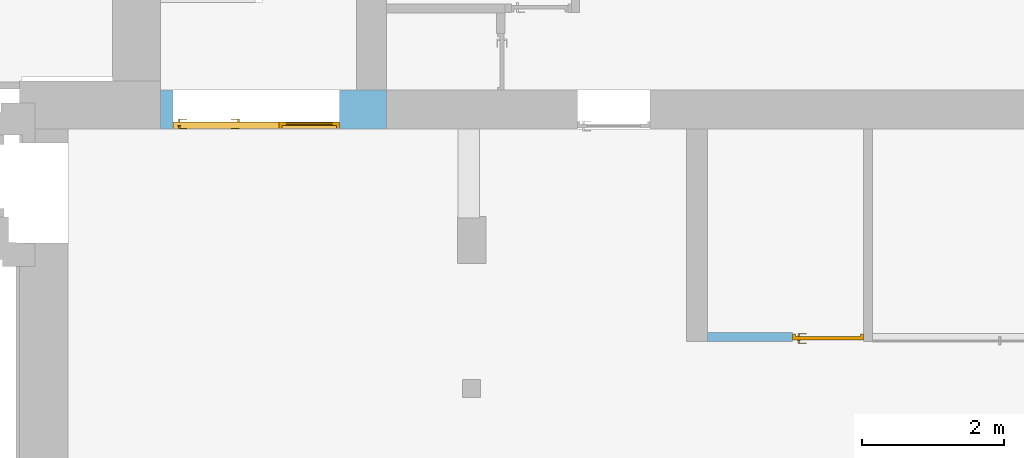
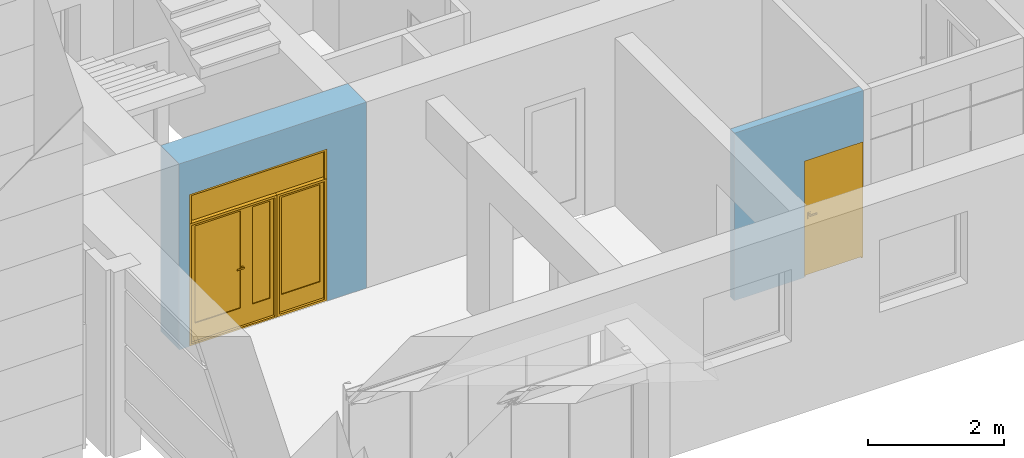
# One storey, part 33 of 49: 4 doors, 5 openings, plus 2 elements that do not belong to this part.
"""IFC2X3 building model written with IfcOpenShell, lengths in millimetres."""

from ifc_helpers import new_model, entity, si_unit, converted_unit, derived_unit, direction, frame, frame_2d, origin, place, context, subcontext, project, spatial, rectangle, extrude, faceted_brep, source, transform, mapped, material, material_list, layer, layer_set, layer_usage, type_object, type_shapes, element, fill, save


model = new_model("IFC2X3")

# Units and contexts
model_context = context("Model", 3, precision=0.01, world=origin(), true_north=direction((6.12303176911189e-17, 1.0)))
body_context = subcontext(model_context, "Body", "Model", "MODEL_VIEW")
ifc_project = project(units=[si_unit("LENGTHUNIT", "METRE", prefix="MILLI"), si_unit("AREAUNIT", "SQUARE_METRE"), si_unit("VOLUMEUNIT", "CUBIC_METRE"), converted_unit("PLANEANGLEUNIT", "DEGREE", entity("IfcRatioMeasure", 0.0174532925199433), si_unit("PLANEANGLEUNIT", "RADIAN"), dimensions=[0, 0, 0, 0, 0, 0, 0]), si_unit("MASSUNIT", "GRAM", prefix="KILO"), derived_unit("MASSDENSITYUNIT", [(si_unit("MASSUNIT", "GRAM", prefix="KILO"), 1), (si_unit("LENGTHUNIT", "METRE"), -3)]), si_unit("TIMEUNIT", "SECOND"), si_unit("FREQUENCYUNIT", "HERTZ"), si_unit("THERMODYNAMICTEMPERATUREUNIT", "DEGREE_CELSIUS"), derived_unit("THERMALTRANSMITTANCEUNIT", [(si_unit("MASSUNIT", "GRAM", prefix="KILO"), 1), (si_unit("THERMODYNAMICTEMPERATUREUNIT", "KELVIN"), -1), (si_unit("TIMEUNIT", "SECOND"), -3)]), derived_unit("VOLUMETRICFLOWRATEUNIT", [(si_unit("LENGTHUNIT", "METRE"), 3), (si_unit("TIMEUNIT", "SECOND"), -1)]), si_unit("ELECTRICCURRENTUNIT", "AMPERE"), si_unit("ELECTRICVOLTAGEUNIT", "VOLT"), si_unit("POWERUNIT", "WATT"), si_unit("FORCEUNIT", "NEWTON", prefix="KILO"), si_unit("ILLUMINANCEUNIT", "LUX"), si_unit("LUMINOUSFLUXUNIT", "LUMEN"), si_unit("LUMINOUSINTENSITYUNIT", "CANDELA"), derived_unit("USERDEFINED", [(si_unit("MASSUNIT", "GRAM", prefix="KILO"), -1), (si_unit("LENGTHUNIT", "METRE"), -2), (si_unit("TIMEUNIT", "SECOND"), 3), (si_unit("LUMINOUSFLUXUNIT", "LUMEN"), 1)]), derived_unit("LINEARVELOCITYUNIT", [(si_unit("LENGTHUNIT", "METRE"), 1), (si_unit("TIMEUNIT", "SECOND"), -1)]), si_unit("PRESSUREUNIT", "PASCAL"), derived_unit("USERDEFINED", [(si_unit("LENGTHUNIT", "METRE"), -2), (si_unit("MASSUNIT", "GRAM", prefix="KILO"), 1), (si_unit("TIMEUNIT", "SECOND"), -2)])], contexts=[model_context])

# Site, building, storey
site_placement = place(None, frame((-151.875543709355, 2715.0, 0.0)))
site = spatial("IfcSite", under=ifc_project, at=site_placement, Name="Surface", CompositionType="ELEMENT")
building_placement = place(site_placement, origin())
building = spatial("IfcBuilding", under=site, at=building_placement, CompositionType="ELEMENT")
storey_placement = place(building_placement, origin())
storey = spatial("IfcBuildingStorey", under=building, at=storey_placement, Name="1 korrus", CompositionType="ELEMENT", Elevation=3.0969999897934e-10)

# Wall, openings, doors
ifc_material_1 = material(Name="__Kips GN13_tava")
ifc_layer_1 = layer(ifc_material_1, 20.0)
ifc_material_2 = material(Name="Masonry - Brick")
ifc_layer_2 = layer(ifc_material_2, 510.0)
ifc_layer_3 = layer(ifc_material_1, 20.0)
ifc_layer_set_1 = layer_set([ifc_layer_1, ifc_layer_2, ifc_layer_3], Name="Basic Wall:SS-1")
ifc_layer_usage_1 = layer_usage(ifc_layer_set_1, "AXIS2", "NEGATIVE", 275.0)
wall_type_1 = type_object("IfcWallType", Name="Basic Wall:SS-1", PredefinedType="STANDARD", material=ifc_layer_set_1)
wall_1_placement = place(storey_placement, frame((1770.0, 6285.0, 0.0)))
wall_1 = element("IfcWallStandardCase", 1, at=wall_1_placement, inside=storey, type_object=wall_type_1, material=ifc_layer_usage_1, Name="SEIN - 002", ObjectType="Basic Wall:SS-1", context=body_context, shape_type="SweptSolid", body=[
    extrude(rectangle(XDim=3190.87293322, YDim=550.000000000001, at=frame_2d((1595.43646661, 0.0), x_axis=(-1.0, 0.0))), origin(), (0.0, 0.0, 1.0), 3350.0),
])
opening_1_placement = place(wall_1_placement, origin())
element("IfcOpeningElement", 2, at=opening_1_placement, cuts=wall_1, Name="SEIN - 002", ObjectType="Opening", context=body_context, shape_type="SweptSolid", body=[
    extrude(rectangle(XDim=2739.99999999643, YDim=2350.00000000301, at=frame_2d((-2.27373675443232e-13, 1.93267624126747e-12), x_axis=(0.0, 1.0))), frame((1349.7675673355, 275.0, 1370.0), z_axis=(0.0, -1.0, 0.0), x_axis=(1.0, 0.0, 0.0)), (0.0, 0.0, 1.0), 550.0),
])
opening_2_placement = place(wall_1_placement, frame((174.767567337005, -275.0, 2200.0)))
opening_2 = element("IfcOpeningElement", 3, at=opening_2_placement, cuts=wall_1, Name="Ühepoolsed:SU16_ülemine:1", ObjectType="Opening", context=body_context, shape_type="SweptSolid", body=[
    extrude(rectangle(XDim=539.999999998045, YDim=2350.0, at=frame_2d((269.999999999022, 1175.0), x_axis=(1.0, 0.0))), frame((0.0, 0.0, 0.0), z_axis=(0.0, 1.0, 0.0), x_axis=(0.0, 0.0, 1.0)), (0.0, 0.0, 1.0), 550.0),
])
opening_3_placement = place(wall_1_placement, frame((1674.76756733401, -275.0, 0.0)))
opening_3 = element("IfcOpeningElement", 4, at=opening_3_placement, cuts=wall_1, Name="Aken ukse kohal:SU-1500_aken 2:1", ObjectType="Opening", context=body_context, shape_type="SweptSolid", body=[
    extrude(rectangle(XDim=2199.99999999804, YDim=850.0, at=frame_2d((1099.99999999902, 425.0), x_axis=(1.0, 0.0))), frame((0.0, 0.0, 0.0), z_axis=(0.0, 1.0, 0.0), x_axis=(0.0, 0.0, 1.0)), (0.0, 0.0, 1.0), 550.0),
])
opening_4_placement = place(wall_1_placement, frame((174.767567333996, -275.0, 0.0)))
opening_4 = element("IfcOpeningElement", 5, at=opening_4_placement, cuts=wall_1, Name="Kahepoolsed:SU-16:1", ObjectType="Opening", context=body_context, shape_type="SweptSolid", body=[
    extrude(rectangle(XDim=2199.99999999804, YDim=1500.0, at=frame_2d((1099.99999999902, 750.0), x_axis=(1.0, 0.0))), frame((0.0, 0.0, 0.0), z_axis=(0.0, 1.0, 0.0), x_axis=(0.0, 0.0, 1.0)), (0.0, 0.0, 1.0), 550.0),
])
ifc_material_3 = material(Name="_Alumiiniumprofiil - must")
ifc_material_4 = material(Name="__Uks_hele tamm")
ifc_material_5 = material(Name="EP Tavallinen lasi")
ifc_material_list_1 = material_list([ifc_material_3, ifc_material_4, ifc_material_5])
ifc_material_list_2 = material_list([ifc_material_3, ifc_material_4, ifc_material_5])
door_style_1 = type_object("IfcDoorStyle", Name="SU-16", ConstructionType="NOTDEFINED", OperationType="FOLDING_TO_RIGHT", ParameterTakesPrecedence=False, Sizeable=False, material=ifc_material_list_2)
shared_shape_1 = source(origin(), body_context, "Body", "Brep", [
    faceted_brep([(912.5, 10.0, 1100.0), (817.5, 10.0, 1100.0), (817.5, 5.0, 1100.0), (937.5, 5.0, 1100.0), (937.5, 48.0, 1100.0), (912.5, 48.0, 1100.0), (912.5, 10.0, 1075.0), (912.5, 48.0, 1075.0), (937.5, 48.0, 1075.0), (937.5, 5.0, 1075.0), (817.5, 5.0, 1075.0), (817.5, 10.0, 1075.0)], [[[0, 1, 2, 3, 4, 5]], [[6, 7, 8, 9, 10, 11]], [[5, 7, 6, 0]], [[4, 8, 7, 5]], [[3, 9, 8, 4]], [[2, 10, 9, 3]], [[1, 11, 10, 2]], [[0, 6, 11, 1]]]),
    faceted_brep([(900.0, 48.0, 1125.0), (950.0, 48.0, 1125.0), (950.0, 50.0, 1125.0), (900.0, 50.0, 1125.0), (900.0, 48.0, 1005.0), (900.0, 50.0, 1005.0), (950.0, 50.0, 1005.0), (950.0, 48.0, 1005.0)], [[[0, 1, 2, 3]], [[4, 5, 6, 7]], [[3, 5, 4, 0]], [[2, 6, 5, 3]], [[1, 7, 6, 2]], [[0, 4, 7, 1]]]),
    faceted_brep([(912.499999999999, 140.0, 1100.0), (912.499999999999, 102.0, 1100.0), (937.499999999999, 102.0, 1100.0), (937.499999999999, 145.0, 1100.0), (817.499999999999, 145.0, 1100.0), (817.499999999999, 140.0, 1100.0), (912.499999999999, 140.0, 1075.0), (817.499999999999, 140.0, 1075.0), (817.499999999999, 145.0, 1075.0), (937.499999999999, 145.0, 1075.0), (937.499999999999, 102.0, 1075.0), (912.499999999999, 102.0, 1075.0)], [[[0, 1, 2, 3, 4, 5]], [[6, 7, 8, 9, 10, 11]], [[1, 0, 6, 11]], [[2, 1, 11, 10]], [[3, 2, 10, 9]], [[4, 3, 9, 8]], [[5, 4, 8, 7]], [[0, 5, 7, 6]]]),
    faceted_brep([(900.0, 102.0, 1125.0), (900.0, 100.0, 1125.0), (950.0, 100.0, 1125.0), (950.0, 102.0, 1125.0), (900.0, 102.0, 1005.0), (950.0, 102.0, 1005.0), (950.0, 100.0, 1005.0), (900.0, 100.0, 1005.0)], [[[0, 1, 2, 3]], [[4, 5, 6, 7]], [[1, 0, 4, 7]], [[2, 1, 7, 6]], [[3, 2, 6, 5]], [[0, 3, 5, 4]]]),
    faceted_brep([(1460.0, 10.0, 30.0), (1460.0, 10.0, 0.0), (1460.0, 50.0, 0.0), (1460.0, 50.0, 20.0), (1460.0, 50.0, 30.0), (40.0, 10.0, 30.0), (40.0, 50.0, 30.0), (40.0, 50.0, 20.0), (40.0, 50.0, 0.0), (40.0, 10.0, 0.0), (25.0, 50.0, 0.0), (25.0, 100.0, 0.0), (1475.0, 100.0, 0.0), (1475.0, 50.0, 0.0), (1475.0, 100.0, 20.0), (1475.0, 50.0, 20.0), (25.0, 100.0, 20.0), (25.0, 50.0, 20.0)], [[[0, 1, 2, 3, 4]], [[5, 6, 7, 8, 9]], [[1, 0, 5, 9]], [[2, 1, 9, 8, 10, 11, 12, 13]], [[6, 4, 3, 7]], [[0, 4, 6, 5]], [[14, 15, 13, 12]], [[16, 11, 10, 17]], [[15, 14, 16, 17, 7, 3]], [[13, 15, 3, 2]], [[14, 12, 11, 16]], [[17, 10, 8, 7]]]),
    faceted_brep([(1500.0, 10.0, 0.0), (1460.0, 10.0, 0.0), (1460.0, 50.0, 0.0), (1475.0, 50.0, 0.0), (1475.0, 100.0, 0.0), (1500.0, 100.0, 0.0), (1500.0, 10.0, 2200.0), (0.0, 10.0, 2200.0), (0.0, 10.0, 0.0), (40.0, 10.0, 0.0), (40.0, 10.0, 2160.0), (1460.0, 10.0, 2160.0), (1460.0, 50.0, 2160.0), (40.0, 50.0, 2160.0), (40.0, 50.0, 0.0), (25.0, 50.0, 0.0), (25.0, 50.0, 2175.0), (1475.0, 50.0, 2175.0), (1475.0, 100.0, 2175.0), (25.0, 100.0, 2175.0), (25.0, 100.0, 0.0), (0.0, 100.0, 0.0), (0.0, 100.0, 2200.0), (1500.0, 100.0, 2200.0)], [[[0, 1, 2, 3, 4, 5]], [[1, 0, 6, 7, 8, 9, 10, 11]], [[2, 1, 11, 12]], [[3, 2, 12, 13, 14, 15, 16, 17]], [[4, 3, 17, 18]], [[5, 4, 18, 19, 20, 21, 22, 23]], [[0, 5, 23, 6]], [[8, 7, 22, 21]], [[9, 8, 21, 20, 15, 14]], [[10, 9, 14, 13]], [[16, 15, 20, 19]], [[11, 10, 13, 12]], [[17, 16, 19, 18]], [[7, 6, 23, 22]]]),
    faceted_brep([(125.0, 65.0, 350.0), (900.0, 65.0, 350.0), (900.0, 65.0, 2100.0), (125.0, 65.0, 2100.0), (125.0, 85.0, 350.0), (125.0, 85.0, 2100.0), (900.0, 85.0, 2100.0), (900.0, 85.0, 350.0)], [[[0, 1, 2, 3]], [[4, 5, 6, 7]], [[1, 0, 4, 7]], [[2, 1, 7, 6]], [[3, 2, 6, 5]], [[0, 3, 5, 4]]]),
    faceted_brep([(1100.0, 65.0, 350.0), (1400.0, 65.0, 350.0), (1400.0, 65.0, 2100.0), (1100.0, 65.0, 2100.0), (1100.0, 85.0, 350.0), (1100.0, 85.0, 2100.0), (1400.0, 85.0, 2100.0), (1400.0, 85.0, 350.0)], [[[0, 1, 2, 3]], [[4, 5, 6, 7]], [[1, 0, 4, 7]], [[2, 1, 7, 6]], [[3, 2, 6, 5]], [[0, 3, 5, 4]]]),
    faceted_brep([(1000.0, 50.0, 2175.0), (25.0, 50.0, 2175.0), (25.0, 50.0, 20.0), (1000.0, 50.0, 20.0), (125.0, 50.0, 350.0), (125.0, 50.0, 2100.0), (900.0, 50.0, 2100.0), (900.0, 50.0, 350.0), (1000.0, 100.0, 2175.0), (1000.0, 100.0, 20.0), (25.0, 100.0, 20.0), (25.0, 100.0, 2175.0), (125.0, 100.0, 2100.0), (125.0, 100.0, 350.0), (900.0, 100.0, 350.0), (900.0, 100.0, 2100.0)], [[[0, 1, 2, 3], [4, 5, 6, 7]], [[8, 9, 10, 11], [12, 13, 14, 15]], [[1, 0, 8, 11]], [[2, 1, 11, 10]], [[3, 2, 10, 9]], [[0, 3, 9, 8]], [[12, 5, 4, 13]], [[13, 4, 7, 14]], [[14, 7, 6, 15]], [[5, 12, 15, 6]]]),
    faceted_brep([(1000.0, 50.0, 2175.0), (1000.0, 50.0, 20.0), (1475.0, 50.0, 20.0), (1475.0, 50.0, 2175.0), (1100.0, 50.0, 350.0), (1100.0, 50.0, 2100.0), (1400.0, 50.0, 2100.0), (1400.0, 50.0, 350.0), (1000.0, 100.0, 2175.0), (1475.0, 100.0, 2175.0), (1475.0, 100.0, 20.0), (1000.0, 100.0, 20.0), (1100.0, 100.0, 2100.0), (1100.0, 100.0, 350.0), (1400.0, 100.0, 350.0), (1400.0, 100.0, 2100.0)], [[[0, 1, 2, 3], [4, 5, 6, 7]], [[8, 9, 10, 11], [12, 13, 14, 15]], [[1, 0, 8, 11]], [[2, 1, 11, 10]], [[3, 2, 10, 9]], [[0, 3, 9, 8]], [[12, 5, 4, 13]], [[13, 4, 7, 14]], [[14, 7, 6, 15]], [[5, 12, 15, 6]]]),
])
type_shapes(door_style_1, [shared_shape_1])
door_1_placement = place(opening_4_placement, origin())
door_1 = element("IfcDoor", 6, at=door_1_placement, inside=storey, type_object=door_style_1, material=ifc_material_list_1, Name="Kahepoolsed:SU-16", ObjectType="SU-16", OverallHeight=2199.99999999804, OverallWidth=1500.0, context=body_context, shape_type="MappedRepresentation", body=[
    mapped(shared_shape_1, transform((0.0, 0.0, 0.0), scale=1.0)),
])
fill(opening_4, door_1)
ifc_material_list_3 = material_list([ifc_material_3, ifc_material_4])
ifc_material_list_4 = material_list([ifc_material_3, ifc_material_4])
door_style_2 = type_object("IfcDoorStyle", Name="SU16_ülemine", ConstructionType="NOTDEFINED", OperationType="SINGLE_SWING_RIGHT", ParameterTakesPrecedence=False, Sizeable=False, material=ifc_material_list_4)
shared_shape_2 = source(origin(), body_context, "Body", "Brep", [
    faceted_brep([(100.0, 10.0, 1112.5), (100.0, 48.0, 1112.5), (75.0, 48.0, 1112.5), (75.0, 5.0, 1112.5), (195.0, 5.0, 1112.5), (195.0, 10.0, 1112.5), (100.0, 10.0, 1087.5), (195.0, 10.0, 1087.5), (195.0, 5.0, 1087.5), (75.0, 5.0, 1087.5), (75.0, 48.0, 1087.5), (100.0, 48.0, 1087.5)], [[[0, 1, 2, 3, 4, 5]], [[6, 7, 8, 9, 10, 11]], [[1, 0, 6, 11]], [[2, 1, 11, 10]], [[3, 2, 10, 9]], [[4, 3, 9, 8]], [[5, 4, 8, 7]], [[0, 5, 7, 6]]]),
    faceted_brep([(112.500000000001, 48.0, 1137.5), (112.500000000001, 50.0, 1137.5), (62.5000000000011, 50.0, 1137.5), (62.5000000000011, 48.0, 1137.5), (112.500000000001, 48.0, 1017.5), (62.5000000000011, 48.0, 1017.5), (62.5000000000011, 50.0, 1017.5), (112.500000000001, 50.0, 1017.5)], [[[0, 1, 2, 3]], [[4, 5, 6, 7]], [[1, 0, 4, 7]], [[2, 1, 7, 6]], [[3, 2, 6, 5]], [[0, 3, 5, 4]]]),
    faceted_brep([(100.0, 140.0, 1112.5), (195.0, 140.0, 1112.5), (195.0, 145.0, 1112.5), (75.0, 145.0, 1112.5), (75.0, 102.0, 1112.5), (100.0, 102.0, 1112.5), (100.0, 140.0, 1087.5), (100.0, 102.0, 1087.5), (75.0, 102.0, 1087.5), (75.0, 145.0, 1087.5), (195.0, 145.0, 1087.5), (195.0, 140.0, 1087.5)], [[[0, 1, 2, 3, 4, 5]], [[6, 7, 8, 9, 10, 11]], [[5, 7, 6, 0]], [[4, 8, 7, 5]], [[3, 9, 8, 4]], [[2, 10, 9, 3]], [[1, 11, 10, 2]], [[0, 6, 11, 1]]]),
    faceted_brep([(112.500000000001, 102.0, 1137.5), (62.5000000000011, 102.0, 1137.5), (62.5000000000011, 100.0, 1137.5), (112.500000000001, 100.0, 1137.5), (112.500000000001, 102.0, 1017.5), (112.500000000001, 100.0, 1017.5), (62.5000000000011, 100.0, 1017.5), (62.5000000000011, 102.0, 1017.5)], [[[0, 1, 2, 3]], [[4, 5, 6, 7]], [[3, 5, 4, 0]], [[2, 6, 5, 3]], [[1, 7, 6, 2]], [[0, 4, 7, 1]]]),
    faceted_brep([(2350.0, 10.0, 0.0), (2310.0, 10.0, 0.0), (2310.0, 50.0, 0.0), (2325.0, 50.0, 0.0), (2325.0, 100.0, 0.0), (2350.0, 100.0, 0.0), (2350.0, 10.0, 540.0), (0.0, 10.0, 540.0), (0.0, 10.0, 0.0), (40.0, 10.0, 0.0), (40.0, 10.0, 500.0), (2310.0, 10.0, 500.0), (2310.0, 50.0, 500.0), (40.0, 50.0, 500.0), (40.0, 50.0, 0.0), (25.0, 50.0, 0.0), (25.0, 50.0, 515.0), (2325.0, 50.0, 515.0), (2325.0, 100.0, 515.0), (25.0, 100.0, 515.0), (25.0, 100.0, 0.0), (0.0, 100.0, 0.0), (0.0, 100.0, 540.0), (2350.0, 100.0, 540.0)], [[[0, 1, 2, 3, 4, 5]], [[1, 0, 6, 7, 8, 9, 10, 11]], [[2, 1, 11, 12]], [[3, 2, 12, 13, 14, 15, 16, 17]], [[4, 3, 17, 18]], [[5, 4, 18, 19, 20, 21, 22, 23]], [[0, 5, 23, 6]], [[11, 10, 13, 12]], [[17, 16, 19, 18]], [[7, 6, 23, 22]], [[9, 8, 21, 20, 15, 14]], [[10, 9, 14, 13]], [[16, 15, 20, 19]], [[8, 7, 22, 21]]]),
    faceted_brep([(25.0, 50.0, 515.0), (25.0, 50.0, 20.0), (2325.0, 50.0, 20.0), (2325.0, 50.0, 515.0), (25.0, 100.0, 515.0), (2325.0, 100.0, 515.0), (2325.0, 100.0, 20.0), (25.0, 100.0, 20.0)], [[[0, 1, 2, 3]], [[4, 5, 6, 7]], [[1, 0, 4, 7]], [[2, 1, 7, 6]], [[3, 2, 6, 5]], [[0, 3, 5, 4]]]),
])
type_shapes(door_style_2, [shared_shape_2])
door_2_placement = place(opening_2_placement, origin())
door_2 = element("IfcDoor", 7, at=door_2_placement, inside=storey, type_object=door_style_2, material=ifc_material_list_3, Name="Ühepoolsed:SU16_ülemine", ObjectType="SU16_ülemine", OverallHeight=539.999999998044, OverallWidth=2350.0, context=body_context, shape_type="MappedRepresentation", body=[
    mapped(shared_shape_2, transform((0.0, 0.0, 0.0), scale=1.0)),
])
fill(opening_2, door_2)
ifc_material_list_5 = material_list([ifc_material_4, ifc_material_5])
ifc_material_list_6 = material_list([ifc_material_4, ifc_material_5])
door_style_3 = type_object("IfcDoorStyle", Name="SU-1500_aken 2", ConstructionType="NOTDEFINED", OperationType="SINGLE_SWING_LEFT", ParameterTakesPrecedence=False, Sizeable=False, material=ifc_material_list_6)
shared_shape_3 = source(origin(), body_context, "Body", "Brep", [
    faceted_brep([(40.0, 10.0, 40.0), (810.0, 10.0, 40.0), (810.0, 50.0, 40.0), (40.0, 50.0, 40.0), (40.0, 50.0, 2160.0), (40.0, 10.0, 2160.0), (0.0, 10.0, 0.0), (850.0, 10.0, 0.0), (850.0, 10.0, 2200.0), (0.0, 10.0, 2200.0), (810.0, 10.0, 2160.0), (810.0, 50.0, 2160.0), (25.0, 50.0, 2175.0), (825.0, 50.0, 2175.0), (825.0, 50.0, 25.0), (25.0, 50.0, 25.0), (825.0, 100.0, 25.0), (25.0, 100.0, 25.0), (25.0, 100.0, 2175.0), (825.0, 100.0, 2175.0), (0.0, 100.0, 2200.0), (850.0, 100.0, 2200.0), (850.0, 100.0, 0.0), (0.0, 100.0, 0.0)], [[[0, 1, 2, 3]], [[3, 4, 5, 0]], [[6, 7, 8, 9], [5, 10, 1, 0]], [[3, 2, 11, 4], [12, 13, 14, 15]], [[15, 14, 16, 17]], [[17, 18, 12, 15]], [[17, 16, 19, 18], [20, 21, 22, 23]], [[23, 22, 7, 6]], [[6, 9, 20, 23]], [[11, 2, 1, 10]], [[19, 16, 14, 13]], [[8, 7, 22, 21]], [[4, 11, 10, 5]], [[18, 19, 13, 12]], [[9, 8, 21, 20]]], outer=[[True], [True], [True, False], [False, True], [True], [True], [False, True], [True], [True], [True], [True], [True], [True], [True], [True]]),
    faceted_brep([(100.0, 65.0, 350.0), (750.0, 65.0, 350.0), (750.0, 65.0, 2100.0), (100.0, 65.0, 2100.0), (100.0, 85.0, 350.0), (100.0, 85.0, 2100.0), (750.0, 85.0, 2100.0), (750.0, 85.0, 350.0)], [[[0, 1, 2, 3]], [[4, 5, 6, 7]], [[3, 5, 4, 0]], [[2, 6, 5, 3]], [[1, 7, 6, 2]], [[0, 4, 7, 1]]]),
    faceted_brep([(25.0, 50.0, 20.0), (825.0, 50.0, 20.0), (825.0, 50.0, 2175.0), (25.0, 50.0, 2175.0), (750.0, 50.0, 350.0), (100.0, 50.0, 350.0), (100.0, 50.0, 2100.0), (750.0, 50.0, 2100.0), (25.0, 100.0, 20.0), (25.0, 100.0, 2175.0), (825.0, 100.0, 2175.0), (825.0, 100.0, 20.0), (750.0, 100.0, 2100.0), (100.0, 100.0, 2100.0), (100.0, 100.0, 350.0), (750.0, 100.0, 350.0)], [[[0, 1, 2, 3], [4, 5, 6, 7]], [[8, 9, 10, 11], [12, 13, 14, 15]], [[3, 9, 8, 0]], [[2, 10, 9, 3]], [[1, 11, 10, 2]], [[0, 8, 11, 1]], [[12, 15, 4, 7]], [[15, 14, 5, 4]], [[14, 13, 6, 5]], [[7, 6, 13, 12]]]),
])
type_shapes(door_style_3, [shared_shape_3])
door_3_placement = place(opening_3_placement, origin())
door_3 = element("IfcDoor", 8, at=door_3_placement, inside=storey, type_object=door_style_3, material=ifc_material_list_5, Name="Aken ukse kohal:SU-1500_aken 2", ObjectType="SU-1500_aken 2", OverallHeight=2199.99999999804, OverallWidth=850.0, context=body_context, shape_type="MappedRepresentation", body=[
    mapped(shared_shape_3, transform((0.0, 0.0, 0.0), scale=1.0)),
])
fill(opening_3, door_3)

# Wall, opening, door
ifc_layer_4 = layer(ifc_material_1, 12.5)
ifc_layer_5 = layer(ifc_material_1, 12.5)
ifc_material_6 = material(Name="__Soojustus EPS")
ifc_layer_6 = layer(ifc_material_6, 66.0)
ifc_material_7 = material(Name="__Kips GKB_niiskuskindel")
ifc_layer_7 = layer(ifc_material_7, 12.5)
ifc_layer_8 = layer(ifc_material_7, 12.5)
ifc_material_8 = material(Name="Keraamiline_plaat")
ifc_layer_9 = layer(ifc_material_8, 10.0)
ifc_layer_set_2 = layer_set([ifc_layer_4, ifc_layer_5, ifc_layer_6, ifc_layer_7, ifc_layer_8, ifc_layer_9], Name="Basic Wall:SS-4_Kipssein tava ja niiske ruumi vahel")
ifc_layer_usage_2 = layer_usage(ifc_layer_set_2, "AXIS2", "POSITIVE", -63.0)
wall_type_2 = type_object("IfcWallType", Name="Basic Wall:SS-4_Kipssein tava ja niiske ruumi vahel", PredefinedType="STANDARD", material=ifc_layer_set_2)
wall_2_placement = place(storey_placement, frame((9496.27108497, 3072.90463256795, 0.0)))
wall_2 = element("IfcWallStandardCase", 9, at=wall_2_placement, inside=storey, type_object=wall_type_2, material=ifc_layer_usage_2, Name="Basic Wall:SS-4_Kipssein tava ja niiske ruumi vahel", ObjectType="Basic Wall:SS-4_Kipssein tava ja niiske ruumi vahel", context=body_context, shape_type="SweptSolid", body=[
    extrude(rectangle(XDim=2200.00000003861, YDim=126.0, at=frame_2d((1100.0000000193, 4.9737991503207e-14), x_axis=(-1.0, 0.0))), origin(), (0.0, 0.0, 1.0), 3020.0),
])
opening_5_placement = place(wall_2_placement, frame((2200.0, 63.0, 0.0)))
opening_5 = element("IfcOpeningElement", 10, at=opening_5_placement, cuts=wall_2, Name="Ühepoolsed:SU-07:1", ObjectType="Opening", context=body_context, shape_type="SweptSolid", body=[
    extrude(rectangle(XDim=2099.99999999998, YDim=1000.0, at=frame_2d((1049.99999999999, 500.0), x_axis=(1.0, 0.0))), frame((0.0, 0.0, 0.0), z_axis=(0.0, -1.0, 0.0), x_axis=(0.0, 0.0, 1.0)), (0.0, 0.0, 1.0), 126.0),
])
ifc_material_list_7 = material_list([ifc_material_3, ifc_material_4])
ifc_material_list_8 = material_list([ifc_material_3, ifc_material_4])
door_style_4 = type_object("IfcDoorStyle", Name="SU-07", ConstructionType="NOTDEFINED", OperationType="FOLDING_TO_RIGHT", ParameterTakesPrecedence=False, Sizeable=False, material=ifc_material_list_8)
shared_shape_4 = source(origin(), body_context, "Body", "Brep", [
    faceted_brep([(900.0, 16.0, 1112.5), (805.0, 16.0, 1112.5), (805.0, 11.0, 1112.5), (925.0, 11.0, 1112.5), (925.0, 54.0, 1112.5), (900.0, 54.0, 1112.5), (900.0, 16.0, 1087.5), (900.0, 54.0, 1087.5), (925.0, 54.0, 1087.5), (925.0, 11.0, 1087.5), (805.0, 11.0, 1087.5), (805.0, 16.0, 1087.5)], [[[0, 1, 2, 3, 4, 5]], [[6, 7, 8, 9, 10, 11]], [[5, 7, 6, 0]], [[4, 8, 7, 5]], [[3, 9, 8, 4]], [[2, 10, 9, 3]], [[1, 11, 10, 2]], [[0, 6, 11, 1]]]),
    faceted_brep([(887.500000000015, 54.0, 1137.5), (937.500000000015, 54.0, 1137.5), (937.500000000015, 56.0, 1137.5), (887.500000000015, 56.0, 1137.5), (887.500000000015, 54.0, 1017.5), (887.500000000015, 56.0, 1017.5), (937.500000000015, 56.0, 1017.5), (937.500000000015, 54.0, 1017.5)], [[[0, 1, 2, 3]], [[4, 5, 6, 7]], [[3, 5, 4, 0]], [[2, 6, 5, 3]], [[1, 7, 6, 2]], [[0, 4, 7, 1]]]),
    faceted_brep([(900.0, 146.0, 1112.5), (900.0, 108.0, 1112.5), (925.0, 108.0, 1112.5), (925.0, 151.0, 1112.5), (805.0, 151.0, 1112.5), (805.0, 146.0, 1112.5), (900.0, 146.0, 1087.5), (805.0, 146.0, 1087.5), (805.0, 151.0, 1087.5), (925.0, 151.0, 1087.5), (925.0, 108.0, 1087.5), (900.0, 108.0, 1087.5)], [[[0, 1, 2, 3, 4, 5]], [[6, 7, 8, 9, 10, 11]], [[1, 0, 6, 11]], [[2, 1, 11, 10]], [[3, 2, 10, 9]], [[4, 3, 9, 8]], [[5, 4, 8, 7]], [[0, 5, 7, 6]]]),
    faceted_brep([(887.500000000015, 108.0, 1137.5), (887.500000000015, 106.0, 1137.5), (937.500000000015, 106.0, 1137.5), (937.500000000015, 108.0, 1137.5), (887.500000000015, 108.0, 1017.5), (937.500000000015, 108.0, 1017.5), (937.500000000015, 106.0, 1017.5), (887.500000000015, 106.0, 1017.5)], [[[0, 1, 2, 3]], [[4, 5, 6, 7]], [[1, 0, 4, 7]], [[2, 1, 7, 6]], [[3, 2, 6, 5]], [[0, 3, 5, 4]]]),
    faceted_brep([(0.0, 16.0, 0.0), (0.0, 106.0, 0.0), (25.0, 106.0, 0.0), (25.0, 56.0, 0.0), (40.0, 56.0, 0.0), (40.0, 16.0, 0.0), (40.0, 16.0, 2060.0), (960.0, 16.0, 2060.0), (960.0, 16.0, 0.0), (1000.0, 16.0, 0.0), (1000.0, 16.0, 2100.0), (0.0, 16.0, 2100.0), (40.0, 56.0, 2060.0), (25.0, 56.0, 2075.0), (975.0, 56.0, 2075.0), (975.0, 56.0, 0.0), (960.0, 56.0, 0.0), (960.0, 56.0, 2060.0), (25.0, 106.0, 2075.0), (0.0, 106.0, 2100.0), (1000.0, 106.0, 2100.0), (1000.0, 106.0, 0.0), (975.0, 106.0, 0.0), (975.0, 106.0, 2075.0)], [[[0, 1, 2, 3, 4, 5]], [[5, 6, 7, 8, 9, 10, 11, 0]], [[4, 12, 6, 5]], [[3, 13, 14, 15, 16, 17, 12, 4]], [[2, 18, 13, 3]], [[1, 19, 20, 21, 22, 23, 18, 2]], [[0, 11, 19, 1]], [[9, 21, 20, 10]], [[8, 16, 15, 22, 21, 9]], [[7, 17, 16, 8]], [[14, 23, 22, 15]], [[6, 12, 17, 7]], [[13, 18, 23, 14]], [[10, 20, 19, 11]]]),
    faceted_brep([(975.0, 56.0, 2075.0), (25.0, 56.0, 2075.0), (25.0, 56.0, 20.0), (975.0, 56.0, 20.0), (975.0, 106.0, 2075.0), (975.0, 106.0, 20.0), (25.0, 106.0, 20.0), (25.0, 106.0, 2075.0)], [[[0, 1, 2, 3]], [[4, 5, 6, 7]], [[3, 5, 4, 0]], [[2, 6, 5, 3]], [[1, 7, 6, 2]], [[0, 4, 7, 1]]]),
])
type_shapes(door_style_4, [shared_shape_4])
door_4_placement = place(opening_5_placement, frame((-4.10676875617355e-07, 0.0, 0.0), z_axis=(0.0, 0.0, 1.0), x_axis=(-1.0, 0.0, 0.0)))
door_4 = element("IfcDoor", 11, at=door_4_placement, inside=storey, type_object=door_style_4, material=ifc_material_list_7, Name="Ühepoolsed:SU-07", ObjectType="SU-07", OverallHeight=2099.99999999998, OverallWidth=1000.0, context=body_context, shape_type="MappedRepresentation", body=[
    mapped(shared_shape_4, transform((0.0, 0.0, 0.0), scale=1.0)),
])
fill(opening_5, door_4)

save(model, "model.ifc")
